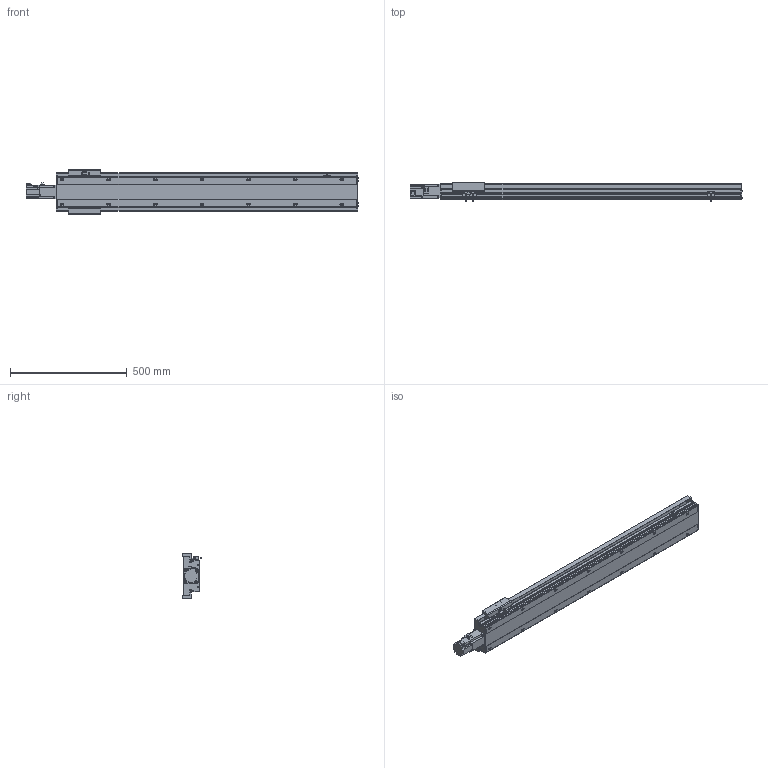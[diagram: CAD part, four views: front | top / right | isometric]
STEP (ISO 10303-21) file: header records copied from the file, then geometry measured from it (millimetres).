
FILE_DESCRIPTION(/* description */ ('STEP AP214'),/* implementation_level */ '2;1');
FILE_NAME(/* name */ 'PSM140-L10-S1050-BC-T40-C1-N(0)',/* time_stamp */ '2022-06-13T03:19:56+02:00',/* author */ ('License CC BY-ND 4.0'),/* organization */ ('CADENAS'),/* preprocessor_version */ 'ST-DEVELOPER v18.102',/* originating_system */ 'PARTsolutions',/* authorisation */ ' ');
FILE_SCHEMA (('AUTOMOTIVE_DESIGN {1 0 10303 214 3 1 1}'));
Length unit declared in the file: millimetre
Products named in the file (7): PSM140-L10-S1050-BC-T40-C1-N(0); PSM-Sensor; PSM140-S1050-1292.5; T40-p1; PSM140_body3; PSM140-S1050_body1; PSM140-L10-S1050-BC-T40-C1-N(0)_dummy
Assembly tree (10 placements, depth 2):
  PSM140-L10-S1050-BC-T40-C1-N(0)
    PSM-Sensor  x3
    PSM140-S1050-1292.5  x3
    T40-p1
    PSM140_body3
    PSM140-S1050_body1
    PSM140-L10-S1050-BC-T40-C1-N(0)_dummy
Bounding box: 1423.7 x 81.3 x 190 mm (x, y, z)
Volume: 5993289.3 mm3; surface area: 1281134.6 mm2
Topology: 9 solids, 9 shells, 976 faces, 2587 edges, 1682 vertices
Faces by surface type: plane 632, cylinder 266, cone 64, torus 14
Full cylindrical faces by diameter (mm): 2.8 x3, 4.5 x12, 4.6 x3, 4.917 x22, 5.5 x7, 5.7 x6, 6 x2, 7 x22, 8 x8, 8.5 x4, 10.5 x14, 14 x1, 50 x1
Entity records: 24984 total; most frequent: CARTESIAN_POINT 4525, DIRECTION 4203, ORIENTED_EDGE 3950, EDGE_CURVE 1975, AXIS2_PLACEMENT_3D 1413, VERTEX_POINT 1392, LINE 1377, VECTOR 1377
